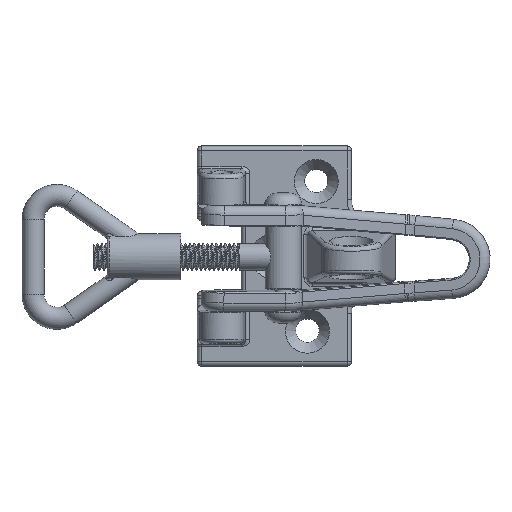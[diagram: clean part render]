
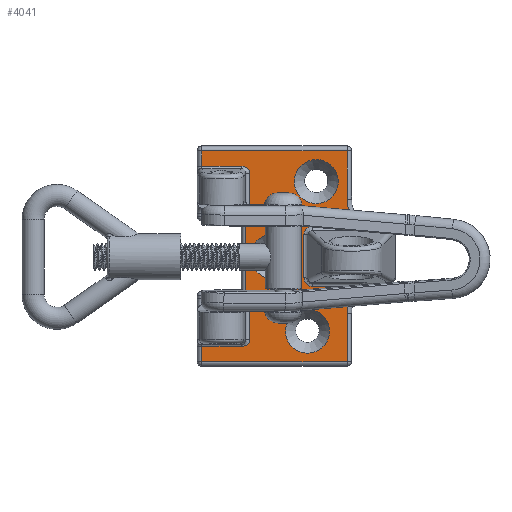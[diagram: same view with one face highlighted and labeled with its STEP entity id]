
A CAD part, top view. The second image highlights one B-rep face of the part: STEP entity #4041.
In plain terms, the highlighted planar face has unit normal (0, -0.052, 0.999) as drawn and (0, 0, 1) by its records, which use the part's own axes.
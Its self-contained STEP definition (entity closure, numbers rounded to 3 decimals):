
#152=B_SPLINE_CURVE_WITH_KNOTS('',3,(#6324,#6325,#6326,#6327,#6328,#6329,
#6330,#6331,#6332),.UNSPECIFIED.,.F.,.F.,(4,1,1,1,1,1,4),(0.,0.25,0.375,
0.5,0.625,0.75,1.),.UNSPECIFIED.);
#153=B_SPLINE_CURVE_WITH_KNOTS('',3,(#6364,#6365,#6366,#6367,#6368,#6369,
#6370,#6371,#6372),.UNSPECIFIED.,.F.,.F.,(4,1,1,1,1,1,4),(0.,0.25,0.375,
0.5,0.625,0.75,1.),.UNSPECIFIED.);
#248=ELLIPSE('',#4389,2.078,2.);
#249=ELLIPSE('',#4390,2.078,2.);
#437=CIRCLE('',#4385,5.);
#438=CIRCLE('',#4386,5.);
#439=CIRCLE('',#4387,5.);
#440=CIRCLE('',#4388,8.);
#441=CIRCLE('',#4391,8.);
#715=ORIENTED_EDGE('',*,*,#1943,.T.);
#716=ORIENTED_EDGE('',*,*,#1944,.T.);
#717=ORIENTED_EDGE('',*,*,#1945,.T.);
#718=ORIENTED_EDGE('',*,*,#1946,.T.);
#719=ORIENTED_EDGE('',*,*,#1947,.T.);
#720=ORIENTED_EDGE('',*,*,#1907,.T.);
#721=ORIENTED_EDGE('',*,*,#1948,.T.);
#722=ORIENTED_EDGE('',*,*,#1949,.T.);
#723=ORIENTED_EDGE('',*,*,#1950,.T.);
#724=ORIENTED_EDGE('',*,*,#1951,.T.);
#725=ORIENTED_EDGE('',*,*,#1952,.T.);
#726=ORIENTED_EDGE('',*,*,#1953,.T.);
#727=ORIENTED_EDGE('',*,*,#1954,.T.);
#728=ORIENTED_EDGE('',*,*,#1955,.T.);
#729=ORIENTED_EDGE('',*,*,#1956,.T.);
#730=ORIENTED_EDGE('',*,*,#1957,.T.);
#731=ORIENTED_EDGE('',*,*,#1958,.T.);
#732=ORIENTED_EDGE('',*,*,#1959,.T.);
#733=ORIENTED_EDGE('',*,*,#1960,.T.);
#734=ORIENTED_EDGE('',*,*,#1961,.T.);
#735=ORIENTED_EDGE('',*,*,#1962,.T.);
#736=ORIENTED_EDGE('',*,*,#1963,.T.);
#737=ORIENTED_EDGE('',*,*,#1964,.T.);
#738=ORIENTED_EDGE('',*,*,#1965,.T.);
#739=ORIENTED_EDGE('',*,*,#1966,.T.);
#740=ORIENTED_EDGE('',*,*,#1967,.T.);
#741=ORIENTED_EDGE('',*,*,#1968,.T.);
#742=ORIENTED_EDGE('',*,*,#1969,.T.);
#743=ORIENTED_EDGE('',*,*,#1970,.T.);
#1907=EDGE_CURVE('',#2523,#2524,#2903,.F.);
#1943=EDGE_CURVE('',#2555,#2555,#437,.T.);
#1944=EDGE_CURVE('',#2556,#2556,#438,.T.);
#1945=EDGE_CURVE('',#2557,#2557,#439,.T.);
#1946=EDGE_CURVE('',#2558,#2559,#2930,.T.);
#1947=EDGE_CURVE('',#2559,#2523,#2931,.T.);
#1948=EDGE_CURVE('',#2524,#2560,#2932,.F.);
#1949=EDGE_CURVE('',#2560,#2561,#2933,.T.);
#1950=EDGE_CURVE('',#2561,#2562,#152,.T.);
#1951=EDGE_CURVE('',#2562,#2563,#2934,.T.);
#1952=EDGE_CURVE('',#2563,#2564,#2935,.F.);
#1953=EDGE_CURVE('',#2564,#2565,#2936,.F.);
#1954=EDGE_CURVE('',#2565,#2566,#2937,.F.);
#1955=EDGE_CURVE('',#2566,#2567,#440,.T.);
#1956=EDGE_CURVE('',#2567,#2568,#2938,.T.);
#1957=EDGE_CURVE('',#2568,#2569,#248,.T.);
#1958=EDGE_CURVE('',#2569,#2570,#2939,.T.);
#1959=EDGE_CURVE('',#2570,#2571,#249,.T.);
#1960=EDGE_CURVE('',#2571,#2572,#2940,.T.);
#1961=EDGE_CURVE('',#2572,#2573,#441,.T.);
#1962=EDGE_CURVE('',#2573,#2574,#2941,.F.);
#1963=EDGE_CURVE('',#2574,#2575,#2942,.F.);
#1964=EDGE_CURVE('',#2575,#2576,#2943,.F.);
#1965=EDGE_CURVE('',#2576,#2577,#2944,.F.);
#1966=EDGE_CURVE('',#2577,#2578,#153,.T.);
#1967=EDGE_CURVE('',#2578,#2579,#2945,.F.);
#1968=EDGE_CURVE('',#2579,#2580,#2946,.T.);
#1969=EDGE_CURVE('',#2580,#2581,#2947,.F.);
#1970=EDGE_CURVE('',#2581,#2558,#2948,.T.);
#2523=VERTEX_POINT('',#6227);
#2524=VERTEX_POINT('',#6228);
#2555=VERTEX_POINT('',#6311);
#2556=VERTEX_POINT('',#6313);
#2557=VERTEX_POINT('',#6315);
#2558=VERTEX_POINT('',#6317);
#2559=VERTEX_POINT('',#6318);
#2560=VERTEX_POINT('',#6321);
#2561=VERTEX_POINT('',#6323);
#2562=VERTEX_POINT('',#6333);
#2563=VERTEX_POINT('',#6335);
#2564=VERTEX_POINT('',#6337);
#2565=VERTEX_POINT('',#6339);
#2566=VERTEX_POINT('',#6341);
#2567=VERTEX_POINT('',#6343);
#2568=VERTEX_POINT('',#6345);
#2569=VERTEX_POINT('',#6347);
#2570=VERTEX_POINT('',#6349);
#2571=VERTEX_POINT('',#6351);
#2572=VERTEX_POINT('',#6353);
#2573=VERTEX_POINT('',#6355);
#2574=VERTEX_POINT('',#6357);
#2575=VERTEX_POINT('',#6359);
#2576=VERTEX_POINT('',#6361);
#2577=VERTEX_POINT('',#6363);
#2578=VERTEX_POINT('',#6373);
#2579=VERTEX_POINT('',#6375);
#2580=VERTEX_POINT('',#6377);
#2581=VERTEX_POINT('',#6379);
#2903=LINE('',#6226,#3110);
#2930=LINE('',#6316,#3137);
#2931=LINE('',#6319,#3138);
#2932=LINE('',#6320,#3139);
#2933=LINE('',#6322,#3140);
#2934=LINE('',#6334,#3141);
#2935=LINE('',#6336,#3142);
#2936=LINE('',#6338,#3143);
#2937=LINE('',#6340,#3144);
#2938=LINE('',#6344,#3145);
#2939=LINE('',#6348,#3146);
#2940=LINE('',#6352,#3147);
#2941=LINE('',#6356,#3148);
#2942=LINE('',#6358,#3149);
#2943=LINE('',#6360,#3150);
#2944=LINE('',#6362,#3151);
#2945=LINE('',#6374,#3152);
#2946=LINE('',#6376,#3153);
#2947=LINE('',#6378,#3154);
#2948=LINE('',#6380,#3155);
#3110=VECTOR('',#4926,1000.);
#3137=VECTOR('',#4989,1000.);
#3138=VECTOR('',#4990,1000.);
#3139=VECTOR('',#4991,1000.);
#3140=VECTOR('',#4992,1000.);
#3141=VECTOR('',#4993,1000.);
#3142=VECTOR('',#4994,1000.);
#3143=VECTOR('',#4995,1000.);
#3144=VECTOR('',#4996,1000.);
#3145=VECTOR('',#4999,1000.);
#3146=VECTOR('',#5002,1000.);
#3147=VECTOR('',#5005,1000.);
#3148=VECTOR('',#5008,1000.);
#3149=VECTOR('',#5009,1000.);
#3150=VECTOR('',#5010,1000.);
#3151=VECTOR('',#5011,1000.);
#3152=VECTOR('',#5012,1000.);
#3153=VECTOR('',#5013,1000.);
#3154=VECTOR('',#5014,1000.);
#3155=VECTOR('',#5015,1000.);
#3320=EDGE_LOOP('',(#715));
#3321=EDGE_LOOP('',(#716));
#3322=EDGE_LOOP('',(#717));
#3323=EDGE_LOOP('',(#718,#719,#720,#721,#722,#723,#724,#725,#726,#727,#728,
#729,#730,#731,#732,#733,#734,#735,#736,#737,#738,#739,#740,#741,#742,#743));
#3648=FACE_BOUND('',#3320,.T.);
#3649=FACE_BOUND('',#3321,.T.);
#3650=FACE_BOUND('',#3322,.T.);
#3651=FACE_BOUND('',#3323,.T.);
#3974=PLANE('',#4384);
#4041=ADVANCED_FACE('',(#3648,#3649,#3650,#3651),#3974,.F.);
#4384=AXIS2_PLACEMENT_3D('',#6309,#4981,#4982);
#4385=AXIS2_PLACEMENT_3D('',#6310,#4983,#4984);
#4386=AXIS2_PLACEMENT_3D('',#6312,#4985,#4986);
#4387=AXIS2_PLACEMENT_3D('',#6314,#4987,#4988);
#4388=AXIS2_PLACEMENT_3D('',#6342,#4997,#4998);
#4389=AXIS2_PLACEMENT_3D('',#6346,#5000,#5001);
#4390=AXIS2_PLACEMENT_3D('',#6350,#5003,#5004);
#4391=AXIS2_PLACEMENT_3D('',#6354,#5006,#5007);
#4926=DIRECTION('',(1.,0.,0.));
#4981=DIRECTION('',(0.,0.,-1.));
#4982=DIRECTION('',(-1.,0.,0.));
#4983=DIRECTION('',(0.,0.,-1.));
#4984=DIRECTION('',(0.,1.,0.));
#4985=DIRECTION('',(0.,0.,-1.));
#4986=DIRECTION('',(0.,1.,0.));
#4987=DIRECTION('',(0.,0.,-1.));
#4988=DIRECTION('',(0.,1.,0.));
#4989=DIRECTION('',(-1.,0.,0.));
#4990=DIRECTION('',(0.,1.,0.));
#4991=DIRECTION('',(0.,1.,0.));
#4992=DIRECTION('',(-1.,0.,0.));
#4993=DIRECTION('',(0.,1.,0.));
#4994=DIRECTION('',(1.,0.,0.));
#4995=DIRECTION('',(0.,1.,0.));
#4996=DIRECTION('',(-1.,0.,0.));
#4997=DIRECTION('',(0.,0.,-1.));
#4998=DIRECTION('',(-1.,0.,0.));
#4999=DIRECTION('',(0.,1.,0.));
#5000=DIRECTION('',(0.,0.,-1.));
#5001=DIRECTION('',(0.559,-0.829,0.));
#5002=DIRECTION('',(1.,0.,0.));
#5003=DIRECTION('',(0.,0.,-1.));
#5004=DIRECTION('',(0.559,0.829,0.));
#5005=DIRECTION('',(0.,-1.,0.));
#5006=DIRECTION('',(0.,0.,-1.));
#5007=DIRECTION('',(-1.,0.,0.));
#5008=DIRECTION('',(-1.,0.,0.));
#5009=DIRECTION('',(0.,-1.,0.));
#5010=DIRECTION('',(1.,0.,0.));
#5011=DIRECTION('',(0.,1.,0.));
#5012=DIRECTION('',(1.,0.,0.));
#5013=DIRECTION('',(0.,1.,0.));
#5014=DIRECTION('',(1.,0.,0.));
#5015=DIRECTION('',(0.,-1.,0.));
#6226=CARTESIAN_POINT('',(-9.677,16.5,3.));
#6227=CARTESIAN_POINT('',(-9.,16.5,3.));
#6228=CARTESIAN_POINT('',(-9.677,16.5,3.));
#6309=CARTESIAN_POINT('',(0.,0.,3.));
#6310=CARTESIAN_POINT('',(17.,-9.5,3.));
#6311=CARTESIAN_POINT('',(17.,-4.5,3.));
#6312=CARTESIAN_POINT('',(-17.,-7.5,3.));
#6313=CARTESIAN_POINT('',(-17.,-2.5,3.));
#6314=CARTESIAN_POINT('',(0.,0.5,3.));
#6315=CARTESIAN_POINT('',(0.,5.5,3.));
#6316=CARTESIAN_POINT('',(0.,6.5,3.));
#6317=CARTESIAN_POINT('',(9.,6.5,3.));
#6318=CARTESIAN_POINT('',(-9.,6.5,3.));
#6319=CARTESIAN_POINT('',(-9.,0.,3.));
#6320=CARTESIAN_POINT('',(-9.677,0.,3.));
#6321=CARTESIAN_POINT('',(-9.677,5.567,3.));
#6322=CARTESIAN_POINT('',(-19.079,5.567,3.));
#6323=CARTESIAN_POINT('',(-18.937,5.567,3.));
#6324=CARTESIAN_POINT('',(-18.937,5.567,3.));
#6325=CARTESIAN_POINT('',(-19.185,5.567,3.));
#6326=CARTESIAN_POINT('',(-19.518,5.654,3.));
#6327=CARTESIAN_POINT('',(-19.877,5.923,3.));
#6328=CARTESIAN_POINT('',(-20.123,6.24,3.));
#6329=CARTESIAN_POINT('',(-20.269,6.52,3.));
#6330=CARTESIAN_POINT('',(-20.423,6.942,3.));
#6331=CARTESIAN_POINT('',(-20.466,7.286,3.));
#6332=CARTESIAN_POINT('',(-20.466,7.53,3.));
#6333=CARTESIAN_POINT('',(-20.466,7.53,3.));
#6334=CARTESIAN_POINT('',(-20.466,0.,3.));
#6335=CARTESIAN_POINT('',(-20.466,16.5,3.));
#6336=CARTESIAN_POINT('',(-25.,16.5,3.));
#6337=CARTESIAN_POINT('',(-24.,16.5,3.));
#6338=CARTESIAN_POINT('',(-24.,-17.5,3.));
#6339=CARTESIAN_POINT('',(-24.,-16.5,3.));
#6340=CARTESIAN_POINT('',(-13.,-16.5,3.));
#6341=CARTESIAN_POINT('',(-13.,-16.5,3.));
#6342=CARTESIAN_POINT('',(-13.,-24.5,3.));
#6343=CARTESIAN_POINT('',(-6.854,-19.378,3.));
#6344=CARTESIAN_POINT('',(-6.854,-8.491,3.));
#6345=CARTESIAN_POINT('',(-6.854,-8.688,3.));
#6346=CARTESIAN_POINT('',(-4.83,-8.761,3.));
#6347=CARTESIAN_POINT('',(-4.902,-6.707,3.));
#6348=CARTESIAN_POINT('',(0.,-6.707,3.));
#6349=CARTESIAN_POINT('',(4.902,-6.707,3.));
#6350=CARTESIAN_POINT('',(4.83,-8.761,3.));
#6351=CARTESIAN_POINT('',(6.854,-8.688,3.));
#6352=CARTESIAN_POINT('',(6.854,-20.627,3.));
#6353=CARTESIAN_POINT('',(6.854,-19.378,3.));
#6354=CARTESIAN_POINT('',(13.,-24.5,3.));
#6355=CARTESIAN_POINT('',(13.,-16.5,3.));
#6356=CARTESIAN_POINT('',(25.,-16.5,3.));
#6357=CARTESIAN_POINT('',(24.,-16.5,3.));
#6358=CARTESIAN_POINT('',(24.,16.5,3.));
#6359=CARTESIAN_POINT('',(24.,16.5,3.));
#6360=CARTESIAN_POINT('',(20.466,16.5,3.));
#6361=CARTESIAN_POINT('',(20.466,16.5,3.));
#6362=CARTESIAN_POINT('',(20.466,6.5,3.));
#6363=CARTESIAN_POINT('',(20.466,7.53,3.));
#6364=CARTESIAN_POINT('',(20.466,7.53,3.));
#6365=CARTESIAN_POINT('',(20.466,7.286,3.));
#6366=CARTESIAN_POINT('',(20.423,6.942,3.));
#6367=CARTESIAN_POINT('',(20.269,6.52,3.));
#6368=CARTESIAN_POINT('',(20.122,6.24,3.));
#6369=CARTESIAN_POINT('',(19.877,5.923,3.));
#6370=CARTESIAN_POINT('',(19.518,5.654,3.));
#6371=CARTESIAN_POINT('',(19.185,5.567,3.));
#6372=CARTESIAN_POINT('',(18.937,5.567,3.));
#6373=CARTESIAN_POINT('',(18.937,5.567,3.));
#6374=CARTESIAN_POINT('',(9.677,5.567,3.));
#6375=CARTESIAN_POINT('',(9.677,5.567,3.));
#6376=CARTESIAN_POINT('',(9.677,0.,3.));
#6377=CARTESIAN_POINT('',(9.677,16.5,3.));
#6378=CARTESIAN_POINT('',(-9.677,16.5,3.));
#6379=CARTESIAN_POINT('',(9.,16.5,3.));
#6380=CARTESIAN_POINT('',(9.,0.,3.));
